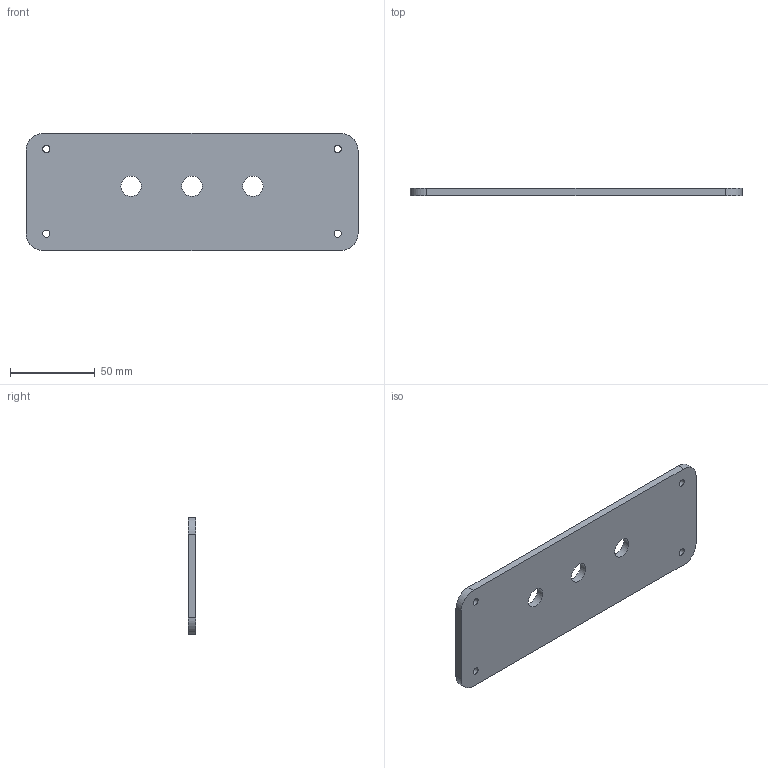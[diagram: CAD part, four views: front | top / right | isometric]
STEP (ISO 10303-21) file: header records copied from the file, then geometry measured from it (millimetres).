
FILE_DESCRIPTION(('FreeCAD Model'),'2;1');
FILE_NAME('Open CASCADE Shape Model','2026-10-14T02:28:29',('FreeCAD'),( 'FreeCAD'),'Open CASCADE STEP processor 7.8','FreeCAD','Unknown');
FILE_SCHEMA(('AUTOMOTIVE_DESIGN { 1 0 10303 214 1 1 1 1 }'));
Length unit declared in the file: millimetre
Products named in the file (1): Open CASCADE STEP translator 7.8 13
Bounding box: 196 x 4.4 x 69.2 mm (x, y, z)
Volume: 57563.7 mm3; surface area: 29153.4 mm2
Topology: 1 solids, 1 shells, 17 faces, 45 edges, 30 vertices
Faces by surface type: cylinder 11, plane 6
Full cylindrical faces by diameter (mm): 4.2 x4, 12 x3
Entity records: 579 total; most frequent: DIRECTION 103, CARTESIAN_POINT 93, ORIENTED_EDGE 90, EDGE_CURVE 45, AXIS2_PLACEMENT_3D 40, FACE_BOUND 31, EDGE_LOOP 31, VERTEX_POINT 30
